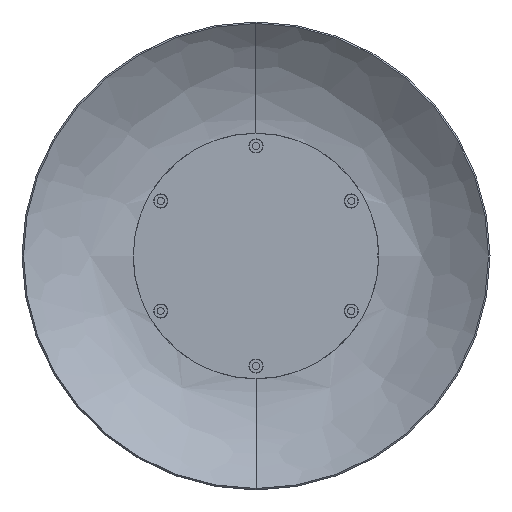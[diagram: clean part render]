
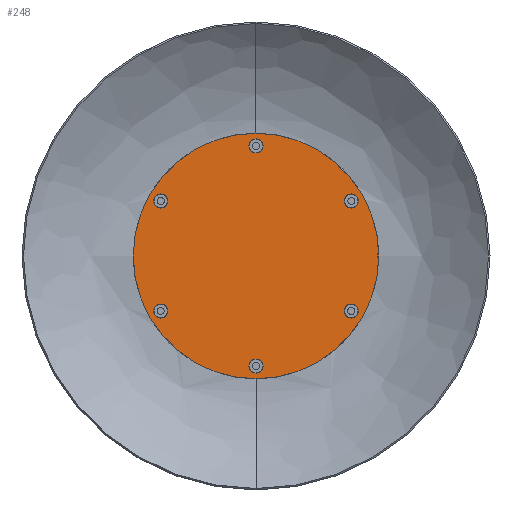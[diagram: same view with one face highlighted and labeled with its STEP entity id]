
A CAD part, front view. The second image highlights one B-rep face of the part: STEP entity #248.
In plain terms, the highlighted planar face has unit normal (0, -1, 0).
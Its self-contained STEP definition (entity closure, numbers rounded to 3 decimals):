
#93=FACE_BOUND('',#726,.T.);
#94=FACE_BOUND('',#727,.T.);
#95=FACE_BOUND('',#728,.T.);
#96=FACE_BOUND('',#729,.T.);
#97=FACE_BOUND('',#730,.T.);
#98=FACE_BOUND('',#731,.T.);
#248=ADVANCED_FACE('',(#468,#93,#94,#95,#96,#97,#98),#3483,.T.);
#468=FACE_OUTER_BOUND('',#725,.T.);
#725=EDGE_LOOP('',(#1422,#1423));
#726=EDGE_LOOP('',(#1424,#1425));
#727=EDGE_LOOP('',(#1426,#1427));
#728=EDGE_LOOP('',(#1428,#1429));
#729=EDGE_LOOP('',(#1430,#1431));
#730=EDGE_LOOP('',(#1432,#1433));
#731=EDGE_LOOP('',(#1434,#1435));
#1422=ORIENTED_EDGE('',*,*,#1945,.F.);
#1423=ORIENTED_EDGE('',*,*,#1955,.F.);
#1424=ORIENTED_EDGE('',*,*,#2051,.F.);
#1425=ORIENTED_EDGE('',*,*,#2052,.F.);
#1426=ORIENTED_EDGE('',*,*,#2063,.F.);
#1427=ORIENTED_EDGE('',*,*,#2064,.F.);
#1428=ORIENTED_EDGE('',*,*,#2075,.F.);
#1429=ORIENTED_EDGE('',*,*,#2076,.F.);
#1430=ORIENTED_EDGE('',*,*,#2087,.F.);
#1431=ORIENTED_EDGE('',*,*,#2088,.F.);
#1432=ORIENTED_EDGE('',*,*,#2099,.F.);
#1433=ORIENTED_EDGE('',*,*,#2100,.F.);
#1434=ORIENTED_EDGE('',*,*,#2111,.F.);
#1435=ORIENTED_EDGE('',*,*,#2112,.F.);
#1945=EDGE_CURVE('',#3139,#3138,#2349,.T.);
#1955=EDGE_CURVE('',#3138,#3139,#2352,.T.);
#2051=EDGE_CURVE('',#3205,#3206,#2420,.T.);
#2052=EDGE_CURVE('',#3206,#3205,#2421,.T.);
#2063=EDGE_CURVE('',#3213,#3214,#2428,.T.);
#2064=EDGE_CURVE('',#3214,#3213,#2429,.T.);
#2075=EDGE_CURVE('',#3221,#3222,#2436,.T.);
#2076=EDGE_CURVE('',#3222,#3221,#2437,.T.);
#2087=EDGE_CURVE('',#3229,#3230,#2444,.T.);
#2088=EDGE_CURVE('',#3230,#3229,#2445,.T.);
#2099=EDGE_CURVE('',#3237,#3238,#2452,.T.);
#2100=EDGE_CURVE('',#3238,#3237,#2453,.T.);
#2111=EDGE_CURVE('',#3245,#3246,#2460,.T.);
#2112=EDGE_CURVE('',#3246,#3245,#2461,.T.);
#2349=TRIMMED_CURVE($,#2600,(#7022),(#7023),.T.,.CARTESIAN.);
#2352=TRIMMED_CURVE($,#2603,(#7085),(#7086),.T.,.CARTESIAN.);
#2420=TRIMMED_CURVE($,#2671,(#7345),(#7346),.T.,.CARTESIAN.);
#2421=TRIMMED_CURVE($,#2672,(#7348),(#7349),.T.,.CARTESIAN.);
#2428=TRIMMED_CURVE($,#2679,(#7377),(#7378),.T.,.CARTESIAN.);
#2429=TRIMMED_CURVE($,#2680,(#7380),(#7381),.T.,.CARTESIAN.);
#2436=TRIMMED_CURVE($,#2687,(#7409),(#7410),.T.,.CARTESIAN.);
#2437=TRIMMED_CURVE($,#2688,(#7412),(#7413),.T.,.CARTESIAN.);
#2444=TRIMMED_CURVE($,#2695,(#7441),(#7442),.T.,.CARTESIAN.);
#2445=TRIMMED_CURVE($,#2696,(#7444),(#7445),.T.,.CARTESIAN.);
#2452=TRIMMED_CURVE($,#2703,(#7473),(#7474),.T.,.CARTESIAN.);
#2453=TRIMMED_CURVE($,#2704,(#7476),(#7477),.T.,.CARTESIAN.);
#2460=TRIMMED_CURVE($,#2711,(#7505),(#7506),.T.,.CARTESIAN.);
#2461=TRIMMED_CURVE($,#2712,(#7508),(#7509),.T.,.CARTESIAN.);
#2600=CIRCLE('',#4287,145.);
#2603=CIRCLE('',#4290,145.);
#2671=CIRCLE('',#4358,8.3);
#2672=CIRCLE('',#4359,8.3);
#2679=CIRCLE('',#4366,8.3);
#2680=CIRCLE('',#4367,8.3);
#2687=CIRCLE('',#4374,8.3);
#2688=CIRCLE('',#4375,8.3);
#2695=CIRCLE('',#4382,8.3);
#2696=CIRCLE('',#4383,8.3);
#2703=CIRCLE('',#4390,8.3);
#2704=CIRCLE('',#4391,8.3);
#2711=CIRCLE('',#4398,8.3);
#2712=CIRCLE('',#4399,8.3);
#3138=VERTEX_POINT('',#6905);
#3139=VERTEX_POINT('',#6906);
#3205=VERTEX_POINT('',#6972);
#3206=VERTEX_POINT('',#6973);
#3213=VERTEX_POINT('',#6980);
#3214=VERTEX_POINT('',#6981);
#3221=VERTEX_POINT('',#6988);
#3222=VERTEX_POINT('',#6989);
#3229=VERTEX_POINT('',#6996);
#3230=VERTEX_POINT('',#6997);
#3237=VERTEX_POINT('',#7004);
#3238=VERTEX_POINT('',#7005);
#3245=VERTEX_POINT('',#7012);
#3246=VERTEX_POINT('',#7013);
#3483=PLANE('',#4285);
#4285=AXIS2_PLACEMENT_3D('',#6899,#4759,$);
#4287=AXIS2_PLACEMENT_3D($,#7021,#4762,#4763);
#4290=AXIS2_PLACEMENT_3D($,#7084,#4768,#4769);
#4358=AXIS2_PLACEMENT_3D($,#7344,#4904,#4905);
#4359=AXIS2_PLACEMENT_3D($,#7347,#4906,#4907);
#4366=AXIS2_PLACEMENT_3D($,#7376,#4920,#4921);
#4367=AXIS2_PLACEMENT_3D($,#7379,#4922,#4923);
#4374=AXIS2_PLACEMENT_3D($,#7408,#4936,#4937);
#4375=AXIS2_PLACEMENT_3D($,#7411,#4938,#4939);
#4382=AXIS2_PLACEMENT_3D($,#7440,#4952,#4953);
#4383=AXIS2_PLACEMENT_3D($,#7443,#4954,#4955);
#4390=AXIS2_PLACEMENT_3D($,#7472,#4968,#4969);
#4391=AXIS2_PLACEMENT_3D($,#7475,#4970,#4971);
#4398=AXIS2_PLACEMENT_3D($,#7504,#4984,#4985);
#4399=AXIS2_PLACEMENT_3D($,#7507,#4986,#4987);
#4759=DIRECTION('',(0.,-1.,0.));
#4762=DIRECTION('',(0.,1.,0.));
#4763=DIRECTION('',(1.,0.,0.));
#4768=DIRECTION('',(0.,1.,0.));
#4769=DIRECTION('',(-1.,0.,0.));
#4904=DIRECTION('',(0.,-1.,0.));
#4905=DIRECTION('',(-1.,0.,0.));
#4906=DIRECTION('',(0.,-1.,0.));
#4907=DIRECTION('',(1.,0.,0.));
#4920=DIRECTION('',(0.,-1.,0.));
#4921=DIRECTION('',(-0.5,0.,0.866));
#4922=DIRECTION('',(0.,-1.,0.));
#4923=DIRECTION('',(0.5,0.,-0.866));
#4936=DIRECTION('',(0.,-1.,0.));
#4937=DIRECTION('',(0.5,0.,0.866));
#4938=DIRECTION('',(0.,-1.,0.));
#4939=DIRECTION('',(-0.5,0.,-0.866));
#4952=DIRECTION('',(0.,-1.,0.));
#4953=DIRECTION('',(1.,0.,0.));
#4954=DIRECTION('',(0.,-1.,0.));
#4955=DIRECTION('',(-1.,0.,0.));
#4968=DIRECTION('',(0.,-1.,0.));
#4969=DIRECTION('',(0.5,0.,-0.866));
#4970=DIRECTION('',(0.,-1.,0.));
#4971=DIRECTION('',(-0.5,0.,0.866));
#4984=DIRECTION('',(0.,-1.,0.));
#4985=DIRECTION('',(-0.5,0.,-0.866));
#4986=DIRECTION('',(0.,-1.,0.));
#4987=DIRECTION('',(0.5,0.,0.866));
#6899=CARTESIAN_POINT('',(-173.324,-630.821,174.));
#6905=CARTESIAN_POINT('',(-144.324,-630.821,0.));
#6906=CARTESIAN_POINT('',(145.676,-630.821,0.));
#6972=CARTESIAN_POINT('',(104.959,-630.821,65.));
#6973=CARTESIAN_POINT('',(121.559,-630.821,65.));
#6980=CARTESIAN_POINT('',(109.109,-630.821,-57.812));
#6981=CARTESIAN_POINT('',(117.409,-630.821,-72.188));
#6988=CARTESIAN_POINT('',(4.826,-630.821,-122.812));
#6989=CARTESIAN_POINT('',(-3.474,-630.821,-137.188));
#6996=CARTESIAN_POINT('',(-103.607,-630.821,-65.));
#6997=CARTESIAN_POINT('',(-120.207,-630.821,-65.));
#7004=CARTESIAN_POINT('',(-107.757,-630.821,57.812));
#7005=CARTESIAN_POINT('',(-116.057,-630.821,72.188));
#7012=CARTESIAN_POINT('',(-3.474,-630.821,122.812));
#7013=CARTESIAN_POINT('',(4.826,-630.821,137.188));
#7021=CARTESIAN_POINT('',(0.676,-630.821,0.));
#7022=CARTESIAN_POINT('',(145.676,-630.821,0.));
#7023=CARTESIAN_POINT('',(-144.324,-630.821,0.));
#7084=CARTESIAN_POINT('',(0.676,-630.821,0.));
#7085=CARTESIAN_POINT('',(-144.324,-630.821,0.));
#7086=CARTESIAN_POINT('',(145.676,-630.821,0.));
#7344=CARTESIAN_POINT('',(113.259,-630.821,65.));
#7345=CARTESIAN_POINT('',(104.959,-630.821,65.));
#7346=CARTESIAN_POINT('',(121.559,-630.821,65.));
#7347=CARTESIAN_POINT('',(113.259,-630.821,65.));
#7348=CARTESIAN_POINT('',(121.559,-630.821,65.));
#7349=CARTESIAN_POINT('',(104.959,-630.821,65.));
#7376=CARTESIAN_POINT('',(113.259,-630.821,-65.));
#7377=CARTESIAN_POINT('',(109.109,-630.821,-57.812));
#7378=CARTESIAN_POINT('',(117.409,-630.821,-72.188));
#7379=CARTESIAN_POINT('',(113.259,-630.821,-65.));
#7380=CARTESIAN_POINT('',(117.409,-630.821,-72.188));
#7381=CARTESIAN_POINT('',(109.109,-630.821,-57.812));
#7408=CARTESIAN_POINT('',(0.676,-630.821,-130.));
#7409=CARTESIAN_POINT('',(4.826,-630.821,-122.812));
#7410=CARTESIAN_POINT('',(-3.474,-630.821,-137.188));
#7411=CARTESIAN_POINT('',(0.676,-630.821,-130.));
#7412=CARTESIAN_POINT('',(-3.474,-630.821,-137.188));
#7413=CARTESIAN_POINT('',(4.826,-630.821,-122.812));
#7440=CARTESIAN_POINT('',(-111.907,-630.821,-65.));
#7441=CARTESIAN_POINT('',(-103.607,-630.821,-65.));
#7442=CARTESIAN_POINT('',(-120.207,-630.821,-65.));
#7443=CARTESIAN_POINT('',(-111.907,-630.821,-65.));
#7444=CARTESIAN_POINT('',(-120.207,-630.821,-65.));
#7445=CARTESIAN_POINT('',(-103.607,-630.821,-65.));
#7472=CARTESIAN_POINT('',(-111.907,-630.821,65.));
#7473=CARTESIAN_POINT('',(-107.757,-630.821,57.812));
#7474=CARTESIAN_POINT('',(-116.057,-630.821,72.188));
#7475=CARTESIAN_POINT('',(-111.907,-630.821,65.));
#7476=CARTESIAN_POINT('',(-116.057,-630.821,72.188));
#7477=CARTESIAN_POINT('',(-107.757,-630.821,57.812));
#7504=CARTESIAN_POINT('',(0.676,-630.821,130.));
#7505=CARTESIAN_POINT('',(-3.474,-630.821,122.812));
#7506=CARTESIAN_POINT('',(4.826,-630.821,137.188));
#7507=CARTESIAN_POINT('',(0.676,-630.821,130.));
#7508=CARTESIAN_POINT('',(4.826,-630.821,137.188));
#7509=CARTESIAN_POINT('',(-3.474,-630.821,122.812));
